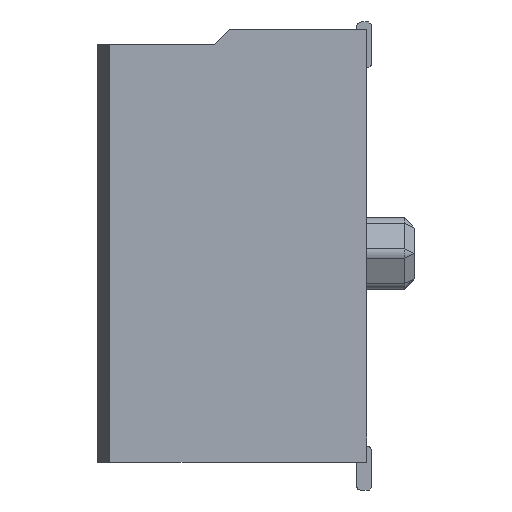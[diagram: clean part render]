
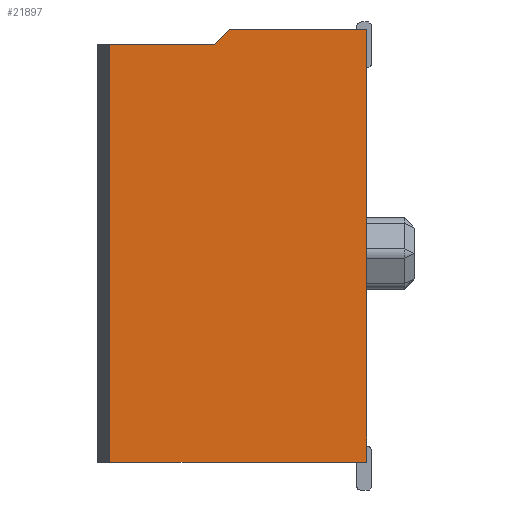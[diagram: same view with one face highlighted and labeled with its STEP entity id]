
A CAD part, left-side view. The second image highlights one B-rep face of the part: STEP entity #21897.
In plain terms, the highlighted planar face has unit normal (-1, 0, 0).
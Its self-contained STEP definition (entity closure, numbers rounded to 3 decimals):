
#1062 = CARTESIAN_POINT ( 'NONE',  ( -4.26, 2.408, -4.25 ) ) ;
#1071 = DIRECTION ( 'NONE',  ( 0., -1., 0. ) ) ;
#1079 = CARTESIAN_POINT ( 'NONE',  ( -4.26, 2.408, 4.25 ) ) ;
#1080 = DIRECTION ( 'NONE',  ( 0., -1., 0. ) ) ;
#2131 = CARTESIAN_POINT ( 'NONE',  ( -4.26, 0.108, 3.95 ) ) ;
#2134 = DIRECTION ( 'NONE',  ( 0., 0.707, -0.707 ) ) ;
#2213 = CARTESIAN_POINT ( 'NONE',  ( -4.26, -2.892, 4.25 ) ) ;
#2247 = DIRECTION ( 'NONE',  ( 0., 0., 1. ) ) ;
#2306 = DIRECTION ( 'NONE',  ( 0., 1., 0. ) ) ;
#2357 = CARTESIAN_POINT ( 'NONE',  ( -4.26, 2.408, 3.95 ) ) ;
#2497 = CARTESIAN_POINT ( 'NONE',  ( -4.26, 2.158, 4.25 ) ) ;
#2547 = DIRECTION ( 'NONE',  ( 0., 0., -1. ) ) ;
#4602 = EDGE_LOOP ( 'NONE', ( #16041, #16052, #16011, #16016, #16038, #16014 ) ) ;
#8337 = VERTEX_POINT ( 'NONE', #26798 ) ;
#8341 = VERTEX_POINT ( 'NONE', #26773 ) ;
#8366 = VERTEX_POINT ( 'NONE', #26821 ) ;
#8380 = VERTEX_POINT ( 'NONE', #26806 ) ;
#8515 = VERTEX_POINT ( 'NONE', #26882 ) ;
#8542 = VERTEX_POINT ( 'NONE', #26823 ) ;
#9658 = EDGE_CURVE ( 'NONE', #8542, #8337, #10943, .T. ) ;
#9669 = EDGE_CURVE ( 'NONE', #8380, #8515, #10960, .T. ) ;
#9711 = EDGE_CURVE ( 'NONE', #8515, #8341, #11109, .T. ) ;
#9736 = EDGE_CURVE ( 'NONE', #8366, #8337, #11199, .T. ) ;
#9737 = EDGE_CURVE ( 'NONE', #8341, #8542, #11220, .T. ) ;
#9795 = EDGE_CURVE ( 'NONE', #8366, #8380, #11421, .T. ) ;
#10942 = VECTOR ( 'NONE', #2247, 1000. ) ;
#10943 = LINE ( 'NONE', #2213, #10942 ) ;
#10960 = LINE ( 'NONE', #2357, #10963 ) ;
#10963 = VECTOR ( 'NONE', #2306, 1000. ) ;
#11090 = VECTOR ( 'NONE', #2547, 1000. ) ;
#11109 = LINE ( 'NONE', #2497, #11090 ) ;
#11199 = LINE ( 'NONE', #1079, #11203 ) ;
#11203 = VECTOR ( 'NONE', #1080, 1000. ) ;
#11220 = LINE ( 'NONE', #1062, #11255 ) ;
#11255 = VECTOR ( 'NONE', #1071, 1000. ) ;
#11388 = VECTOR ( 'NONE', #2134, 1000. ) ;
#11421 = LINE ( 'NONE', #2131, #11388 ) ;
#16011 = ORIENTED_EDGE ( 'NONE', *, *, #9737, .T. ) ;
#16014 = ORIENTED_EDGE ( 'NONE', *, *, #9795, .T. ) ;
#16016 = ORIENTED_EDGE ( 'NONE', *, *, #9658, .T. ) ;
#16038 = ORIENTED_EDGE ( 'NONE', *, *, #9736, .F. ) ;
#16041 = ORIENTED_EDGE ( 'NONE', *, *, #9669, .T. ) ;
#16052 = ORIENTED_EDGE ( 'NONE', *, *, #9711, .T. ) ;
#18086 = PLANE ( 'NONE',  #29386 ) ;
#18089 = DIRECTION ( 'NONE',  ( 1., 0., 0. ) ) ;
#18096 = DIRECTION ( 'NONE',  ( 0., 0., -1. ) ) ;
#18118 = CARTESIAN_POINT ( 'NONE',  ( -4.26, 2.408, 4.25 ) ) ;
#21897 = ADVANCED_FACE ( 'NONE', ( #29890 ), #18086, .F. ) ;
#26773 = CARTESIAN_POINT ( 'NONE',  ( -4.26, 2.158, -4.25 ) ) ;
#26798 = CARTESIAN_POINT ( 'NONE',  ( -4.26, -2.892, 4.25 ) ) ;
#26806 = CARTESIAN_POINT ( 'NONE',  ( -4.26, 0.108, 3.95 ) ) ;
#26821 = CARTESIAN_POINT ( 'NONE',  ( -4.26, -0.192, 4.25 ) ) ;
#26823 = CARTESIAN_POINT ( 'NONE',  ( -4.26, -2.892, -4.25 ) ) ;
#26882 = CARTESIAN_POINT ( 'NONE',  ( -4.26, 2.158, 3.95 ) ) ;
#29386 = AXIS2_PLACEMENT_3D ( 'NONE', #18118, #18089, #18096 ) ;
#29890 = FACE_OUTER_BOUND ( 'NONE', #4602, .T. ) ;
